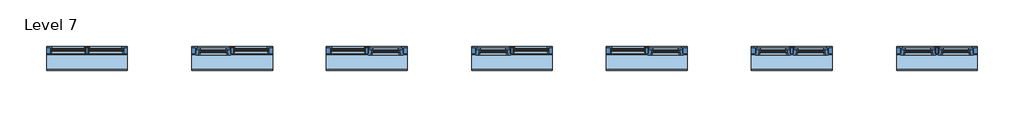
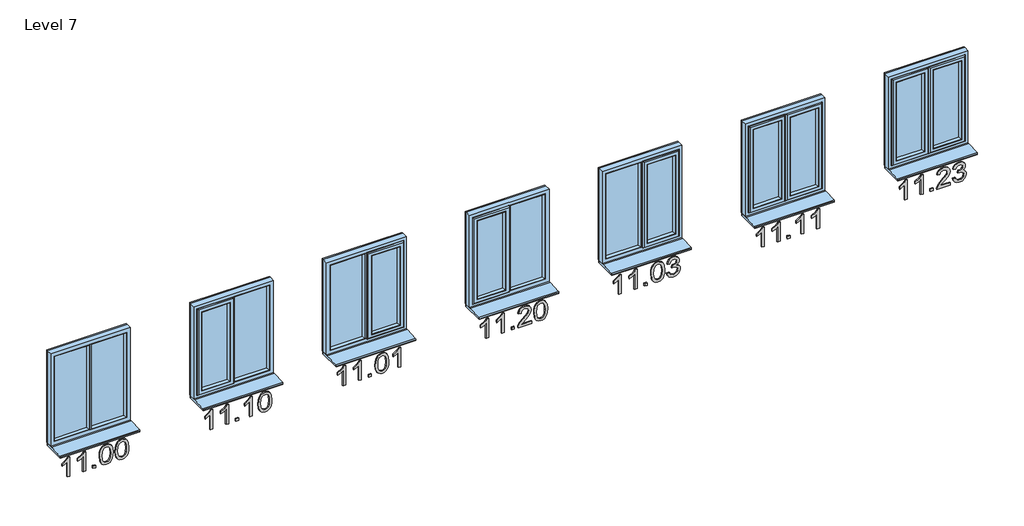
# One storey: 7 proxies, 7 windows.
"""IFC4 building model written with IfcOpenShell, lengths in millimetres."""

from ifc_helpers import new_model, si_unit, frame, origin, place, context, project, spatial, polyline, outline, extrude, transform, mapped, element, save
from components import standard_f761ba24, standard_82a43249, standard_84fab25d, standard_5fa67402

model = new_model("IFC4")

# Units and contexts
model_context = context("Model", 3, world=origin())
ifc_project = project(units=[si_unit("LENGTHUNIT", "METRE", prefix="MILLI")], contexts=[model_context])

# Site, building, storey
site = spatial("IfcSite", under=ifc_project)
building = spatial("IfcBuilding", under=site)
storey = spatial("IfcBuildingStorey", under=building, Name="Level 7", Elevation=18000.0)

# Proxies
placement = place(None, origin())
element("IfcBuildingElementProxy", 1, Name="200mm Arial", ObjectType="200mm Arial", at=placement, inside=storey, context=model_context, shape_type="SweptSolid", body=[
    extrude(outline(polyline([(18299.3207785, -163107.777074), (18500.2333988, -163107.777074), (18500.2333988, -163123.9638818), (18487.0754861, -163132.8359693), (18473.5006405, -163146.3065817), (18450.0052437, -163183.1193066), (18426.2645923, -163183.1193066), (18438.9442584, -163156.6808539), (18455.8913556, -163132.8911516), (18299.3207785, -163132.8911516), (18299.3207785, -163107.777074)])), frame((0.0, 24202.6264647, 0.0), z_axis=(0.0, 1.0, 0.0), x_axis=(0.0, 0.0, 1.0)), (0.0, 0.0, 1.0), 10.0),
    extrude(outline(polyline([(18299.3207785, -162953.9533491), (18500.2333988, -162953.9533491), (18500.2333988, -162970.1401569), (18487.0754861, -162979.0122444), (18473.5006405, -162992.4828567), (18450.0052437, -163029.2955817), (18426.2645923, -163029.2955817), (18438.9442584, -163002.857129), (18455.8913556, -162979.0674267), (18299.3207785, -162979.0674267), (18299.3207785, -162953.9533491)])), frame((0.0, 24202.6264647, 0.0), z_axis=(0.0, 1.0, 0.0), x_axis=(0.0, 0.0, 1.0)), (0.0, 0.0, 1.0), 10.0),
    extrude(outline(polyline([(-162856.6362987, 24202.6264647), (-162881.7503762, 24202.6264647), (-162881.7503762, 24212.6264647), (-162856.6362987, 24212.6264647), (-162856.6362987, 24202.6264647)])), frame((0.0, 0.0, 18299.3207785), z_axis=(0.0, 0.0, 1.0), x_axis=(1.0, 0.0, 0.0)), (0.0, 0.0, 1.0), 25.1140775),
    extrude(outline(polyline([(18398.1584079, -162815.8259227), (18349.2914162, -162810.8227275), (18330.4405296, -162804.5687336), (18315.3113825, -162795.8131421), (18300.9639847, -162775.9965653), (18296.1815188, -162749.9014691), (18298.9345024, -162729.6005144), (18307.1934532, -162713.1377951), (18321.0503417, -162700.4029467), (18340.5971383, -162691.2856046), (18366.1833311, -162685.8041628), (18398.1584079, -162683.9770156), (18445.3699306, -162688.5387523), (18475.0947958, -162700.3109762), (18485.8553441, -162708.9807285), (18493.7586757, -162720.5690114), (18498.614718, -162734.4258999), (18500.2333988, -162749.9014691), (18497.4988093, -162770.0920593), (18489.2950408, -162786.5179904), (18475.4933346, -162799.2712329), (18455.964932, -162808.4437573), (18430.3174256, -162813.9803813), (18398.1584079, -162815.8259227)]), holes=[polyline([(18398.2074588, -162790.7118451), (18437.2029503, -162787.6706873), (18461.6793657, -162778.5472138), (18471.7593324, -162765.9165986), (18475.1193212, -162750.1957747), (18471.3056112, -162733.592034), (18459.8644812, -162720.4709095), (18436.8228055, -162711.9360472), (18398.2074588, -162709.0910931), (18358.7643775, -162712.0341491), (18335.8882488, -162720.863317), (18324.9437594, -162734.0089669), (18321.2955963, -162749.9014691), (18324.9314967, -162765.7939713), (18335.8391979, -162778.9396213), (18358.7030639, -162787.7687892), (18398.2074588, -162790.7118451)])]), frame((0.0, 24202.6264647, 0.0), z_axis=(0.0, 1.0, 0.0), x_axis=(0.0, 0.0, 1.0)), (0.0, 0.0, 1.0), 10.0),
    extrude(outline(polyline([(18398.1584079, -162662.0021977), (18349.2914162, -162656.9990026), (18330.4405296, -162650.7450087), (18315.3113825, -162641.9894172), (18300.9639847, -162622.1728404), (18296.1815188, -162596.0777442), (18298.9345024, -162575.7767894), (18307.1934532, -162559.3140702), (18321.0503417, -162546.5792218), (18340.5971383, -162537.4618796), (18366.1833311, -162531.9804379), (18398.1584079, -162530.1532907), (18445.3699306, -162534.7150274), (18475.0947958, -162546.4872513), (18485.8553441, -162555.1570036), (18493.7586757, -162566.7452865), (18498.614718, -162580.6021749), (18500.2333988, -162596.0777442), (18497.4988093, -162616.2683344), (18489.2950408, -162632.6942655), (18475.4933346, -162645.447508), (18455.964932, -162654.6200324), (18430.3174256, -162660.1566564), (18398.1584079, -162662.0021977)]), holes=[polyline([(18398.2074588, -162636.8881202), (18437.2029503, -162633.8469624), (18461.6793657, -162624.7234889), (18471.7593324, -162612.0928737), (18475.1193212, -162596.3720498), (18471.3056112, -162579.7683091), (18459.8644812, -162566.6471846), (18436.8228055, -162558.1123223), (18398.2074588, -162555.2673682), (18358.7643775, -162558.2104242), (18335.8882488, -162567.0395921), (18324.9437594, -162580.185242), (18321.2955963, -162596.0777442), (18324.9314967, -162611.9702464), (18335.8391979, -162625.1158964), (18358.7030639, -162633.9450642), (18398.2074588, -162636.8881202)])]), frame((0.0, 24202.6264647, 0.0), z_axis=(0.0, 1.0, 0.0), x_axis=(0.0, 0.0, 1.0)), (0.0, 0.0, 1.0), 10.0),
])
element("IfcBuildingElementProxy", 2, Name="200mm Arial", ObjectType="200mm Arial", at=placement, inside=storey, context=model_context, shape_type="SweptSolid", body=[
    extrude(outline(polyline([(18299.3207785, -161707.777074), (18500.2333988, -161707.777074), (18500.2333988, -161723.9638818), (18487.0754861, -161732.8359693), (18473.5006405, -161746.3065817), (18450.0052437, -161783.1193066), (18426.2645923, -161783.1193066), (18438.9442584, -161756.6808539), (18455.8913556, -161732.8911516), (18299.3207785, -161732.8911516), (18299.3207785, -161707.777074)])), frame((0.0, 24202.6264647, 0.0), z_axis=(0.0, 1.0, 0.0), x_axis=(0.0, 0.0, 1.0)), (0.0, 0.0, 1.0), 10.0),
    extrude(outline(polyline([(18299.3207785, -161553.9533491), (18500.2333988, -161553.9533491), (18500.2333988, -161570.1401569), (18487.0754861, -161579.0122444), (18473.5006405, -161592.4828567), (18450.0052437, -161629.2955817), (18426.2645923, -161629.2955817), (18438.9442584, -161602.857129), (18455.8913556, -161579.0674267), (18299.3207785, -161579.0674267), (18299.3207785, -161553.9533491)])), frame((0.0, 24202.6264647, 0.0), z_axis=(0.0, 1.0, 0.0), x_axis=(0.0, 0.0, 1.0)), (0.0, 0.0, 1.0), 10.0),
    extrude(outline(polyline([(-161456.6362987, 24202.6264647), (-161481.7503762, 24202.6264647), (-161481.7503762, 24212.6264647), (-161456.6362987, 24212.6264647), (-161456.6362987, 24202.6264647)])), frame((0.0, 0.0, 18299.3207785), z_axis=(0.0, 0.0, 1.0), x_axis=(1.0, 0.0, 0.0)), (0.0, 0.0, 1.0), 25.1140775),
    extrude(outline(polyline([(18299.3207785, -161321.6481319), (18500.2333988, -161321.6481319), (18500.2333988, -161337.8349397), (18487.0754861, -161346.7070271), (18473.5006405, -161360.1776395), (18450.0052437, -161396.9903645), (18426.2645923, -161396.9903645), (18438.9442584, -161370.5519118), (18455.8913556, -161346.7622094), (18299.3207785, -161346.7622094), (18299.3207785, -161321.6481319)])), frame((0.0, 24202.6264647, 0.0), z_axis=(0.0, 1.0, 0.0), x_axis=(0.0, 0.0, 1.0)), (0.0, 0.0, 1.0), 10.0),
    extrude(outline(polyline([(18398.1584079, -161262.0021977), (18349.2914162, -161256.9990026), (18330.4405296, -161250.7450087), (18315.3113825, -161241.9894172), (18300.9639847, -161222.1728404), (18296.1815188, -161196.0777442), (18298.9345024, -161175.7767894), (18307.1934532, -161159.3140702), (18321.0503417, -161146.5792218), (18340.5971383, -161137.4618796), (18366.1833311, -161131.9804379), (18398.1584079, -161130.1532907), (18445.3699306, -161134.7150274), (18475.0947958, -161146.4872513), (18485.8553441, -161155.1570036), (18493.7586757, -161166.7452865), (18498.614718, -161180.6021749), (18500.2333988, -161196.0777442), (18497.4988093, -161216.2683344), (18489.2950408, -161232.6942655), (18475.4933346, -161245.447508), (18455.964932, -161254.6200324), (18430.3174256, -161260.1566564), (18398.1584079, -161262.0021977)]), holes=[polyline([(18398.2074588, -161236.8881202), (18437.2029503, -161233.8469624), (18461.6793657, -161224.7234889), (18471.7593324, -161212.0928737), (18475.1193212, -161196.3720498), (18471.3056112, -161179.7683091), (18459.8644812, -161166.6471846), (18436.8228055, -161158.1123223), (18398.2074588, -161155.2673682), (18358.7643775, -161158.2104242), (18335.8882488, -161167.0395921), (18324.9437594, -161180.185242), (18321.2955963, -161196.0777442), (18324.9314967, -161211.9702464), (18335.8391979, -161225.1158964), (18358.7030639, -161233.9450642), (18398.2074588, -161236.8881202)])]), frame((0.0, 24202.6264647, 0.0), z_axis=(0.0, 1.0, 0.0), x_axis=(0.0, 0.0, 1.0)), (0.0, 0.0, 1.0), 10.0),
])
element("IfcBuildingElementProxy", 3, Name="200mm Arial", ObjectType="200mm Arial", at=placement, inside=storey, context=model_context, shape_type="SweptSolid", body=[
    extrude(outline(polyline([(18299.3207785, -160407.777074), (18500.2333988, -160407.777074), (18500.2333988, -160423.9638818), (18487.0754861, -160432.8359693), (18473.5006405, -160446.3065817), (18450.0052437, -160483.1193066), (18426.2645923, -160483.1193066), (18438.9442584, -160456.6808539), (18455.8913556, -160432.8911516), (18299.3207785, -160432.8911516), (18299.3207785, -160407.777074)])), frame((0.0, 24202.6264647, 0.0), z_axis=(0.0, 1.0, 0.0), x_axis=(0.0, 0.0, 1.0)), (0.0, 0.0, 1.0), 10.0),
    extrude(outline(polyline([(18299.3207785, -160253.9533491), (18500.2333988, -160253.9533491), (18500.2333988, -160270.1401569), (18487.0754861, -160279.0122444), (18473.5006405, -160292.4828567), (18450.0052437, -160329.2955817), (18426.2645923, -160329.2955817), (18438.9442584, -160302.857129), (18455.8913556, -160279.0674267), (18299.3207785, -160279.0674267), (18299.3207785, -160253.9533491)])), frame((0.0, 24202.6264647, 0.0), z_axis=(0.0, 1.0, 0.0), x_axis=(0.0, 0.0, 1.0)), (0.0, 0.0, 1.0), 10.0),
    extrude(outline(polyline([(-160156.6362987, 24202.6264647), (-160181.7503762, 24202.6264647), (-160181.7503762, 24212.6264647), (-160156.6362987, 24212.6264647), (-160156.6362987, 24202.6264647)])), frame((0.0, 0.0, 18299.3207785), z_axis=(0.0, 0.0, 1.0), x_axis=(1.0, 0.0, 0.0)), (0.0, 0.0, 1.0), 25.1140775),
    extrude(outline(polyline([(18398.1584079, -160115.8259227), (18349.2914162, -160110.8227275), (18330.4405296, -160104.5687336), (18315.3113825, -160095.8131421), (18300.9639847, -160075.9965653), (18296.1815188, -160049.9014691), (18298.9345024, -160029.6005144), (18307.1934532, -160013.1377951), (18321.0503417, -160000.4029467), (18340.5971383, -159991.2856046), (18366.1833311, -159985.8041628), (18398.1584079, -159983.9770156), (18445.3699306, -159988.5387523), (18475.0947958, -160000.3109762), (18485.8553441, -160008.9807285), (18493.7586757, -160020.5690114), (18498.614718, -160034.4258999), (18500.2333988, -160049.9014691), (18497.4988093, -160070.0920593), (18489.2950408, -160086.5179904), (18475.4933346, -160099.2712329), (18455.964932, -160108.4437573), (18430.3174256, -160113.9803813), (18398.1584079, -160115.8259227)]), holes=[polyline([(18398.2074588, -160090.7118451), (18437.2029503, -160087.6706873), (18461.6793657, -160078.5472138), (18471.7593324, -160065.9165986), (18475.1193212, -160050.1957747), (18471.3056112, -160033.592034), (18459.8644812, -160020.4709095), (18436.8228055, -160011.9360472), (18398.2074588, -160009.0910931), (18358.7643775, -160012.0341491), (18335.8882488, -160020.863317), (18324.9437594, -160034.0089669), (18321.2955963, -160049.9014691), (18324.9314967, -160065.7939713), (18335.8391979, -160078.9396213), (18358.7030639, -160087.7687892), (18398.2074588, -160090.7118451)])]), frame((0.0, 24202.6264647, 0.0), z_axis=(0.0, 1.0, 0.0), x_axis=(0.0, 0.0, 1.0)), (0.0, 0.0, 1.0), 10.0),
    extrude(outline(polyline([(18299.3207785, -159867.824407), (18500.2333988, -159867.824407), (18500.2333988, -159884.0112148), (18487.0754861, -159892.8833022), (18473.5006405, -159906.3539146), (18450.0052437, -159943.1666396), (18426.2645923, -159943.1666396), (18438.9442584, -159916.7281869), (18455.8913556, -159892.9384845), (18299.3207785, -159892.9384845), (18299.3207785, -159867.824407)])), frame((0.0, 24202.6264647, 0.0), z_axis=(0.0, 1.0, 0.0), x_axis=(0.0, 0.0, 1.0)), (0.0, 0.0, 1.0), 10.0),
])
element("IfcBuildingElementProxy", 4, Name="200mm Arial", ObjectType="200mm Arial", at=placement, inside=storey, context=model_context, shape_type="SweptSolid", body=[
    extrude(outline(polyline([(18299.3207785, -159007.777074), (18500.2333988, -159007.777074), (18500.2333988, -159023.9638818), (18487.0754861, -159032.8359693), (18473.5006405, -159046.3065817), (18450.0052437, -159083.1193066), (18426.2645923, -159083.1193066), (18438.9442584, -159056.6808539), (18455.8913556, -159032.8911516), (18299.3207785, -159032.8911516), (18299.3207785, -159007.777074)])), frame((0.0, 24202.6264647, 0.0), z_axis=(0.0, 1.0, 0.0), x_axis=(0.0, 0.0, 1.0)), (0.0, 0.0, 1.0), 10.0),
    extrude(outline(polyline([(18299.3207785, -158853.9533491), (18500.2333988, -158853.9533491), (18500.2333988, -158870.1401569), (18487.0754861, -158879.0122444), (18473.5006405, -158892.4828567), (18450.0052437, -158929.2955817), (18426.2645923, -158929.2955817), (18438.9442584, -158902.857129), (18455.8913556, -158879.0674267), (18299.3207785, -158879.0674267), (18299.3207785, -158853.9533491)])), frame((0.0, 24202.6264647, 0.0), z_axis=(0.0, 1.0, 0.0), x_axis=(0.0, 0.0, 1.0)), (0.0, 0.0, 1.0), 10.0),
    extrude(outline(polyline([(-158756.6362987, 24202.6264647), (-158781.7503762, 24202.6264647), (-158781.7503762, 24212.6264647), (-158756.6362987, 24212.6264647), (-158756.6362987, 24202.6264647)])), frame((0.0, 0.0, 18299.3207785), z_axis=(0.0, 0.0, 1.0), x_axis=(1.0, 0.0, 0.0)), (0.0, 0.0, 1.0), 25.1140775),
    extrude(outline(polyline([(18324.434856, -158587.1162753), (18324.434856, -158685.7577009), (18337.212624, -158674.4269355), (18361.3702083, -158645.5359361), (18395.7794376, -158609.557077), (18420.4030058, -158594.7191698), (18444.2172337, -158590.255535), (18466.1184751, -158594.3942074), (18484.1446929, -158606.8102248), (18496.2112223, -158626.3263646), (18500.2333988, -158651.7654046), (18496.6158925, -158677.0205035), (18485.7633736, -158696.5734316), (18468.0191987, -158709.7374756), (18443.7267243, -158715.8259227), (18440.5874646, -158690.7118451), (18455.0207016, -158687.9956497), (18465.9467968, -158680.1413691), (18472.8261901, -158667.9706065), (18475.1193212, -158652.3049648), (18472.7710078, -158637.3873499), (18465.7260676, -158625.596732), (18455.2720876, -158617.9263924), (18442.6966547, -158615.3696125), (18428.668088, -158618.0796765), (18414.2471138, -158626.2098686), (18372.4066682, -158669.5708931), (18343.2949396, -158701.012541), (18316.6357577, -158716.2673811), (18299.3207785, -158718.9651824), (18299.3207785, -158587.1162753), (18324.434856, -158587.1162753)])), frame((0.0, 24202.6264647, 0.0), z_axis=(0.0, 1.0, 0.0), x_axis=(0.0, 0.0, 1.0)), (0.0, 0.0, 1.0), 10.0),
    extrude(outline(polyline([(18398.1584079, -158562.0021977), (18349.2914162, -158556.9990026), (18330.4405296, -158550.7450087), (18315.3113825, -158541.9894172), (18300.9639847, -158522.1728404), (18296.1815188, -158496.0777442), (18298.9345024, -158475.7767894), (18307.1934532, -158459.3140702), (18321.0503417, -158446.5792218), (18340.5971383, -158437.4618796), (18366.1833311, -158431.9804379), (18398.1584079, -158430.1532907), (18445.3699306, -158434.7150274), (18475.0947958, -158446.4872513), (18485.8553441, -158455.1570036), (18493.7586757, -158466.7452865), (18498.614718, -158480.6021749), (18500.2333988, -158496.0777442), (18497.4988093, -158516.2683344), (18489.2950408, -158532.6942655), (18475.4933346, -158545.447508), (18455.964932, -158554.6200324), (18430.3174256, -158560.1566564), (18398.1584079, -158562.0021977)]), holes=[polyline([(18398.2074588, -158536.8881202), (18437.2029503, -158533.8469624), (18461.6793657, -158524.7234889), (18471.7593324, -158512.0928737), (18475.1193212, -158496.3720498), (18471.3056112, -158479.7683091), (18459.8644812, -158466.6471846), (18436.8228055, -158458.1123223), (18398.2074588, -158455.2673682), (18358.7643775, -158458.2104242), (18335.8882488, -158467.0395921), (18324.9437594, -158480.185242), (18321.2955963, -158496.0777442), (18324.9314967, -158511.9702464), (18335.8391979, -158525.1158964), (18358.7030639, -158533.9450642), (18398.2074588, -158536.8881202)])]), frame((0.0, 24202.6264647, 0.0), z_axis=(0.0, 1.0, 0.0), x_axis=(0.0, 0.0, 1.0)), (0.0, 0.0, 1.0), 10.0),
])
element("IfcBuildingElementProxy", 5, Name="200mm Arial", ObjectType="200mm Arial", at=placement, inside=storey, context=model_context, shape_type="SweptSolid", body=[
    extrude(outline(polyline([(18299.3207785, -157707.777074), (18500.2333988, -157707.777074), (18500.2333988, -157723.9638818), (18487.0754861, -157732.8359693), (18473.5006405, -157746.3065817), (18450.0052437, -157783.1193066), (18426.2645923, -157783.1193066), (18438.9442584, -157756.6808539), (18455.8913556, -157732.8911516), (18299.3207785, -157732.8911516), (18299.3207785, -157707.777074)])), frame((0.0, 24202.6264647, 0.0), z_axis=(0.0, 1.0, 0.0), x_axis=(0.0, 0.0, 1.0)), (0.0, 0.0, 1.0), 10.0),
    extrude(outline(polyline([(18299.3207785, -157553.9533491), (18500.2333988, -157553.9533491), (18500.2333988, -157570.1401569), (18487.0754861, -157579.0122444), (18473.5006405, -157592.4828567), (18450.0052437, -157629.2955817), (18426.2645923, -157629.2955817), (18438.9442584, -157602.857129), (18455.8913556, -157579.0674267), (18299.3207785, -157579.0674267), (18299.3207785, -157553.9533491)])), frame((0.0, 24202.6264647, 0.0), z_axis=(0.0, 1.0, 0.0), x_axis=(0.0, 0.0, 1.0)), (0.0, 0.0, 1.0), 10.0),
    extrude(outline(polyline([(-157456.6362987, 24202.6264647), (-157481.7503762, 24202.6264647), (-157481.7503762, 24212.6264647), (-157456.6362987, 24212.6264647), (-157456.6362987, 24202.6264647)])), frame((0.0, 0.0, 18299.3207785), z_axis=(0.0, 0.0, 1.0), x_axis=(1.0, 0.0, 0.0)), (0.0, 0.0, 1.0), 25.1140775),
    extrude(outline(polyline([(18398.1584079, -157415.8259227), (18349.2914162, -157410.8227275), (18330.4405296, -157404.5687336), (18315.3113825, -157395.8131421), (18300.9639847, -157375.9965653), (18296.1815188, -157349.9014691), (18298.9345024, -157329.6005144), (18307.1934532, -157313.1377951), (18321.0503417, -157300.4029467), (18340.5971383, -157291.2856046), (18366.1833311, -157285.8041628), (18398.1584079, -157283.9770156), (18445.3699306, -157288.5387523), (18475.0947958, -157300.3109762), (18485.8553441, -157308.9807285), (18493.7586757, -157320.5690114), (18498.614718, -157334.4258999), (18500.2333988, -157349.9014691), (18497.4988093, -157370.0920593), (18489.2950408, -157386.5179904), (18475.4933346, -157399.2712329), (18455.964932, -157408.4437573), (18430.3174256, -157413.9803813), (18398.1584079, -157415.8259227)]), holes=[polyline([(18398.2074588, -157390.7118451), (18437.2029503, -157387.6706873), (18461.6793657, -157378.5472138), (18471.7593324, -157365.9165986), (18475.1193212, -157350.1957747), (18471.3056112, -157333.592034), (18459.8644812, -157320.4709095), (18436.8228055, -157311.9360472), (18398.2074588, -157309.0910931), (18358.7643775, -157312.0341491), (18335.8882488, -157320.863317), (18324.9437594, -157334.0089669), (18321.2955963, -157349.9014691), (18324.9314967, -157365.7939713), (18335.8391979, -157378.9396213), (18358.7030639, -157387.7687892), (18398.2074588, -157390.7118451)])]), frame((0.0, 24202.6264647, 0.0), z_axis=(0.0, 1.0, 0.0), x_axis=(0.0, 0.0, 1.0)), (0.0, 0.0, 1.0), 10.0),
    extrude(outline(polyline([(18352.6881933, -157262.0021977), (18329.9898741, -157255.784992), (18311.9268682, -157242.0384681), (18300.1178561, -157222.2709423), (18296.1815188, -157197.9907306), (18300.7923065, -157171.1476077), (18314.6246695, -157149.3812563), (18335.0789084, -157134.9602821), (18359.5553238, -157130.1532907), (18377.5324907, -157132.5567864), (18392.223245, -157139.7672735), (18403.0389757, -157151.41687), (18409.3910714, -157167.1376939), (18416.6383467, -157155.1692663), (18426.0193376, -157146.5363022), (18437.031272, -157141.3123779), (18449.1713779, -157139.5710697), (18462.2005318, -157141.4043484), (18474.5061846, -157146.9041842), (18485.1870252, -157155.8682421), (18493.3417427, -157168.0941871), (18498.5104848, -157182.5948691), (18500.2333988, -157198.383138), (18496.7385198, -157220.308905), (18486.253883, -157238.3105973), (18469.4171503, -157251.4685099), (18446.865984, -157258.8629381), (18443.7267243, -157233.7488605), (18457.4609855, -157229.2974884), (18467.271172, -157221.4370764), (18473.1572839, -157210.6703967), (18475.1193212, -157197.5002213), (18473.175678, -157184.3545713), (18467.3447484, -157173.8576717), (18458.5462374, -157166.9782784), (18447.6998499, -157164.6851473), (18434.6768272, -157167.8489324), (18425.5288283, -157177.3402879), (18420.120963, -157190.7925062), (18418.3183412, -157205.8388798), (18418.6126468, -157209.8610563), (18393.4985693, -157212.6569595), (18396.2454215, -157195.0476746), (18393.6763789, -157179.2532743), (18385.9692511, -157166.5000318), (18374.3380487, -157158.0755341), (18359.9967822, -157155.2673682), (18344.889095, -157158.1000596), (18332.4301581, -157166.5981337), (18324.0792368, -157179.8909364), (18321.2955963, -157197.1078138), (18323.3189473, -157211.780174), (18329.3890002, -157223.0312317), (18340.0453154, -157231.265657), (18355.8274529, -157236.8881202), (18352.6881933, -157262.0021977)])), frame((0.0, 24202.6264647, 0.0), z_axis=(0.0, 1.0, 0.0), x_axis=(0.0, 0.0, 1.0)), (0.0, 0.0, 1.0), 10.0),
])
element("IfcBuildingElementProxy", 6, Name="200mm Arial", ObjectType="200mm Arial", at=placement, inside=storey, context=model_context, shape_type="SweptSolid", body=[
    extrude(outline(polyline([(18299.3207785, -156307.777074), (18500.2333988, -156307.777074), (18500.2333988, -156323.9638818), (18487.0754861, -156332.8359693), (18473.5006405, -156346.3065817), (18450.0052437, -156383.1193066), (18426.2645923, -156383.1193066), (18438.9442584, -156356.6808539), (18455.8913556, -156332.8911516), (18299.3207785, -156332.8911516), (18299.3207785, -156307.777074)])), frame((0.0, 24202.6264647, 0.0), z_axis=(0.0, 1.0, 0.0), x_axis=(0.0, 0.0, 1.0)), (0.0, 0.0, 1.0), 10.0),
    extrude(outline(polyline([(18299.3207785, -156153.9533491), (18500.2333988, -156153.9533491), (18500.2333988, -156170.1401569), (18487.0754861, -156179.0122444), (18473.5006405, -156192.4828567), (18450.0052437, -156229.2955817), (18426.2645923, -156229.2955817), (18438.9442584, -156202.857129), (18455.8913556, -156179.0674267), (18299.3207785, -156179.0674267), (18299.3207785, -156153.9533491)])), frame((0.0, 24202.6264647, 0.0), z_axis=(0.0, 1.0, 0.0), x_axis=(0.0, 0.0, 1.0)), (0.0, 0.0, 1.0), 10.0),
    extrude(outline(polyline([(-156056.6362987, 24202.6264647), (-156081.7503762, 24202.6264647), (-156081.7503762, 24212.6264647), (-156056.6362987, 24212.6264647), (-156056.6362987, 24202.6264647)])), frame((0.0, 0.0, 18299.3207785), z_axis=(0.0, 0.0, 1.0), x_axis=(1.0, 0.0, 0.0)), (0.0, 0.0, 1.0), 25.1140775),
    extrude(outline(polyline([(18299.3207785, -155921.6481319), (18500.2333988, -155921.6481319), (18500.2333988, -155937.8349397), (18487.0754861, -155946.7070271), (18473.5006405, -155960.1776395), (18450.0052437, -155996.9903645), (18426.2645923, -155996.9903645), (18438.9442584, -155970.5519118), (18455.8913556, -155946.7622094), (18299.3207785, -155946.7622094), (18299.3207785, -155921.6481319)])), frame((0.0, 24202.6264647, 0.0), z_axis=(0.0, 1.0, 0.0), x_axis=(0.0, 0.0, 1.0)), (0.0, 0.0, 1.0), 10.0),
    extrude(outline(polyline([(18299.3207785, -155767.824407), (18500.2333988, -155767.824407), (18500.2333988, -155784.0112148), (18487.0754861, -155792.8833022), (18473.5006405, -155806.3539146), (18450.0052437, -155843.1666396), (18426.2645923, -155843.1666396), (18438.9442584, -155816.7281869), (18455.8913556, -155792.9384845), (18299.3207785, -155792.9384845), (18299.3207785, -155767.824407)])), frame((0.0, 24202.6264647, 0.0), z_axis=(0.0, 1.0, 0.0), x_axis=(0.0, 0.0, 1.0)), (0.0, 0.0, 1.0), 10.0),
])
element("IfcBuildingElementProxy", 7, Name="200mm Arial", ObjectType="200mm Arial", at=placement, inside=storey, context=model_context, shape_type="SweptSolid", body=[
    extrude(outline(polyline([(18299.3207785, -154907.777074), (18500.2333988, -154907.777074), (18500.2333988, -154923.9638818), (18487.0754861, -154932.8359693), (18473.5006405, -154946.3065817), (18450.0052437, -154983.1193066), (18426.2645923, -154983.1193066), (18438.9442584, -154956.6808539), (18455.8913556, -154932.8911516), (18299.3207785, -154932.8911516), (18299.3207785, -154907.777074)])), frame((0.0, 24202.6264647, 0.0), z_axis=(0.0, 1.0, 0.0), x_axis=(0.0, 0.0, 1.0)), (0.0, 0.0, 1.0), 10.0),
    extrude(outline(polyline([(18299.3207785, -154753.9533491), (18500.2333988, -154753.9533491), (18500.2333988, -154770.1401569), (18487.0754861, -154779.0122444), (18473.5006405, -154792.4828567), (18450.0052437, -154829.2955817), (18426.2645923, -154829.2955817), (18438.9442584, -154802.857129), (18455.8913556, -154779.0674267), (18299.3207785, -154779.0674267), (18299.3207785, -154753.9533491)])), frame((0.0, 24202.6264647, 0.0), z_axis=(0.0, 1.0, 0.0), x_axis=(0.0, 0.0, 1.0)), (0.0, 0.0, 1.0), 10.0),
    extrude(outline(polyline([(-154656.6362987, 24202.6264647), (-154681.7503762, 24202.6264647), (-154681.7503762, 24212.6264647), (-154656.6362987, 24212.6264647), (-154656.6362987, 24202.6264647)])), frame((0.0, 0.0, 18299.3207785), z_axis=(0.0, 0.0, 1.0), x_axis=(1.0, 0.0, 0.0)), (0.0, 0.0, 1.0), 25.1140775),
    extrude(outline(polyline([(18324.434856, -154487.1162753), (18324.434856, -154585.7577009), (18337.212624, -154574.4269355), (18361.3702083, -154545.5359361), (18395.7794376, -154509.557077), (18420.4030058, -154494.7191698), (18444.2172337, -154490.255535), (18466.1184751, -154494.3942074), (18484.1446929, -154506.8102248), (18496.2112223, -154526.3263646), (18500.2333988, -154551.7654046), (18496.6158925, -154577.0205035), (18485.7633736, -154596.5734316), (18468.0191987, -154609.7374756), (18443.7267243, -154615.8259227), (18440.5874646, -154590.7118451), (18455.0207016, -154587.9956497), (18465.9467968, -154580.1413691), (18472.8261901, -154567.9706065), (18475.1193212, -154552.3049648), (18472.7710078, -154537.3873499), (18465.7260676, -154525.596732), (18455.2720876, -154517.9263924), (18442.6966547, -154515.3696125), (18428.668088, -154518.0796765), (18414.2471138, -154526.2098686), (18372.4066682, -154569.5708931), (18343.2949396, -154601.012541), (18316.6357577, -154616.2673811), (18299.3207785, -154618.9651824), (18299.3207785, -154487.1162753), (18324.434856, -154487.1162753)])), frame((0.0, 24202.6264647, 0.0), z_axis=(0.0, 1.0, 0.0), x_axis=(0.0, 0.0, 1.0)), (0.0, 0.0, 1.0), 10.0),
    extrude(outline(polyline([(18352.6881933, -154462.0021977), (18329.9898741, -154455.784992), (18311.9268682, -154442.0384681), (18300.1178561, -154422.2709423), (18296.1815188, -154397.9907306), (18300.7923065, -154371.1476077), (18314.6246695, -154349.3812563), (18335.0789084, -154334.9602821), (18359.5553238, -154330.1532907), (18377.5324907, -154332.5567864), (18392.223245, -154339.7672735), (18403.0389757, -154351.41687), (18409.3910714, -154367.1376939), (18416.6383467, -154355.1692663), (18426.0193376, -154346.5363022), (18437.031272, -154341.3123779), (18449.1713779, -154339.5710697), (18462.2005318, -154341.4043484), (18474.5061846, -154346.9041842), (18485.1870252, -154355.8682421), (18493.3417427, -154368.0941871), (18498.5104848, -154382.5948691), (18500.2333988, -154398.383138), (18496.7385198, -154420.308905), (18486.253883, -154438.3105973), (18469.4171503, -154451.4685099), (18446.865984, -154458.8629381), (18443.7267243, -154433.7488605), (18457.4609855, -154429.2974884), (18467.271172, -154421.4370764), (18473.1572839, -154410.6703967), (18475.1193212, -154397.5002213), (18473.175678, -154384.3545713), (18467.3447484, -154373.8576717), (18458.5462374, -154366.9782784), (18447.6998499, -154364.6851473), (18434.6768272, -154367.8489324), (18425.5288283, -154377.3402879), (18420.120963, -154390.7925062), (18418.3183412, -154405.8388798), (18418.6126468, -154409.8610563), (18393.4985693, -154412.6569595), (18396.2454215, -154395.0476746), (18393.6763789, -154379.2532743), (18385.9692511, -154366.5000318), (18374.3380487, -154358.0755341), (18359.9967822, -154355.2673682), (18344.889095, -154358.1000596), (18332.4301581, -154366.5981337), (18324.0792368, -154379.8909364), (18321.2955963, -154397.1078138), (18323.3189473, -154411.780174), (18329.3890002, -154423.0312317), (18340.0453154, -154431.265657), (18355.8274529, -154436.8881202), (18352.6881933, -154462.0021977)])), frame((0.0, 24202.6264647, 0.0), z_axis=(0.0, 1.0, 0.0), x_axis=(0.0, 0.0, 1.0)), (0.0, 0.0, 1.0), 10.0),
])

# Windows
standard_shape = standard_f761ba24(model_context)
element("IfcWindow", 8, ObjectType="SMARTS_Alitherm600 : Standard", at=placement, inside=storey, context=model_context, shape_type="MappedRepresentation", body=[
    mapped(standard_shape, transform((-156076.7668676, 24355.9063079, 18000.0), x_axis=(-1.0, 0.0, 0.0), y_axis=(0.0, -1.0, 0.0), z_axis=(0.0, 0.0, 1.0))),
])
element("IfcWindow", 9, ObjectType="SMARTS_Alitherm600 : Standard", at=placement, inside=storey, context=model_context, shape_type="MappedRepresentation", body=[
    mapped(standard_shape, transform((-154676.7668676, 24355.9063079, 18000.0), x_axis=(-1.0, 0.0, 0.0), y_axis=(0.0, -1.0, 0.0), z_axis=(0.0, 0.0, 1.0))),
])
standard_2_shape = standard_82a43249(model_context)
element("IfcWindow", 10, ObjectType="SMARTS_Alitherm600 : Standard", at=placement, inside=storey, context=model_context, shape_type="MappedRepresentation", body=[
    mapped(standard_2_shape, transform((-157476.7668676, 24355.9063079, 18000.0), x_axis=(-1.0, 0.0, 0.0), y_axis=(0.0, -1.0, 0.0), z_axis=(0.0, 0.0, 1.0))),
])
standard_3_shape = standard_84fab25d(model_context)
element("IfcWindow", 11, ObjectType="SMARTS_Alitherm600 : Standard", at=placement, inside=storey, context=model_context, shape_type="MappedRepresentation", body=[
    mapped(standard_3_shape, transform((-158776.7668676, 24355.9063079, 18000.0), x_axis=(-1.0, 0.0, 0.0), y_axis=(0.0, -1.0, 0.0), z_axis=(0.0, 0.0, 1.0))),
])
element("IfcWindow", 12, ObjectType="SMARTS_Alitherm600 : Standard", at=placement, inside=storey, context=model_context, shape_type="MappedRepresentation", body=[
    mapped(standard_2_shape, transform((-160176.7668676, 24355.9063079, 18000.0), x_axis=(-1.0, 0.0, 0.0), y_axis=(0.0, -1.0, 0.0), z_axis=(0.0, 0.0, 1.0))),
])
element("IfcWindow", 13, ObjectType="SMARTS_Alitherm600 : Standard", at=placement, inside=storey, context=model_context, shape_type="MappedRepresentation", body=[
    mapped(standard_3_shape, transform((-161476.7668676, 24355.9063079, 18000.0), x_axis=(-1.0, 0.0, 0.0), y_axis=(0.0, -1.0, 0.0), z_axis=(0.0, 0.0, 1.0))),
])
standard_4_shape = standard_5fa67402(model_context)
element("IfcWindow", 14, ObjectType="SMARTS_Alitherm600 : Standard", at=placement, inside=storey, context=model_context, shape_type="MappedRepresentation", body=[
    mapped(standard_4_shape, transform((-162876.7668676, 24355.9063079, 18000.0), x_axis=(-1.0, 0.0, 0.0), y_axis=(0.0, -1.0, 0.0), z_axis=(0.0, 0.0, 1.0))),
])

save(model, "model.ifc")
